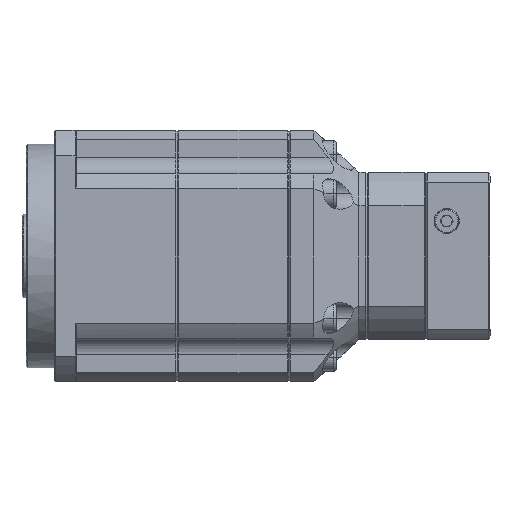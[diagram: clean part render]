
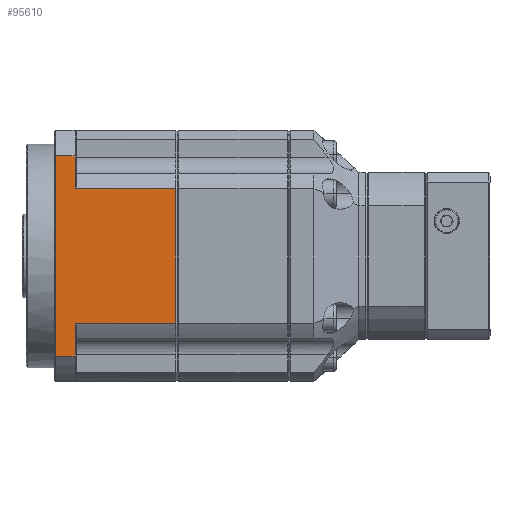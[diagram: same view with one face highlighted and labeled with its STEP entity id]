
A CAD part, front view. The second image highlights one B-rep face of the part: STEP entity #95610.
In plain terms, the highlighted planar face has unit normal (0, -1, 0).
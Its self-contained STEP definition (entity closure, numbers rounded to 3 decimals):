
#1539 = VECTOR ( 'NONE', #22160, 1000. ) ;
#2846 = DIRECTION ( 'NONE',  ( 0., 0., 1. ) ) ;
#3289 = CARTESIAN_POINT ( 'NONE',  ( 32., -45., 35.795 ) ) ;
#4278 = VERTEX_POINT ( 'NONE', #84962 ) ;
#5185 = PLANE ( 'NONE',  #48574 ) ;
#5186 = VECTOR ( 'NONE', #83847, 1000. ) ;
#5300 = CARTESIAN_POINT ( 'NONE',  ( 32., -45., 24. ) ) ;
#5477 = LINE ( 'NONE', #5300, #58775 ) ;
#6065 = VERTEX_POINT ( 'NONE', #76075 ) ;
#6673 = VECTOR ( 'NONE', #20224, 1000. ) ;
#8190 = EDGE_CURVE ( 'NONE', #70177, #73108, #84042, .T. ) ;
#8456 = CARTESIAN_POINT ( 'NONE',  ( 53.5, -45., -24. ) ) ;
#15548 = LINE ( 'NONE', #84854, #94473 ) ;
#18682 = EDGE_LOOP ( 'NONE', ( #52327, #39059, #21064, #46289, #98760, #54690, #23432, #50828 ) ) ;
#19773 = DIRECTION ( 'NONE',  ( 0., -1., 0. ) ) ;
#19998 = CARTESIAN_POINT ( 'NONE',  ( 32., -45., -35.795 ) ) ;
#20224 = DIRECTION ( 'NONE',  ( -1., 0., 0. ) ) ;
#21064 = ORIENTED_EDGE ( 'NONE', *, *, #33747, .T. ) ;
#22160 = DIRECTION ( 'NONE',  ( 0., 0., 1. ) ) ;
#23432 = ORIENTED_EDGE ( 'NONE', *, *, #50534, .T. ) ;
#23489 = EDGE_CURVE ( 'NONE', #62609, #6065, #5477, .T. ) ;
#28107 = DIRECTION ( 'NONE',  ( 1., 0., 0. ) ) ;
#30639 = LINE ( 'NONE', #76356, #5186 ) ;
#33747 = EDGE_CURVE ( 'NONE', #73108, #100529, #30639, .T. ) ;
#36455 = DIRECTION ( 'NONE',  ( -1., 0., 0. ) ) ;
#39059 = ORIENTED_EDGE ( 'NONE', *, *, #8190, .T. ) ;
#39163 = CARTESIAN_POINT ( 'NONE',  ( 17.5, -45., -35.795 ) ) ;
#44246 = CARTESIAN_POINT ( 'NONE',  ( 17.5, -45., -24. ) ) ;
#44856 = CARTESIAN_POINT ( 'NONE',  ( 17.5, -45., 0. ) ) ;
#46289 = ORIENTED_EDGE ( 'NONE', *, *, #57073, .F. ) ;
#47999 = LINE ( 'NONE', #49485, #63749 ) ;
#48574 = AXIS2_PLACEMENT_3D ( 'NONE', #58663, #19773, #83145 ) ;
#49485 = CARTESIAN_POINT ( 'NONE',  ( 53.5, -45., 0. ) ) ;
#50534 = EDGE_CURVE ( 'NONE', #99269, #92837, #70912, .T. ) ;
#50828 = ORIENTED_EDGE ( 'NONE', *, *, #88765, .T. ) ;
#52327 = ORIENTED_EDGE ( 'NONE', *, *, #82191, .T. ) ;
#52397 = CARTESIAN_POINT ( 'NONE',  ( 17.5, -45., 35.795 ) ) ;
#54690 = ORIENTED_EDGE ( 'NONE', *, *, #85901, .T. ) ;
#57073 = EDGE_CURVE ( 'NONE', #62609, #100529, #47999, .T. ) ;
#58663 = CARTESIAN_POINT ( 'NONE',  ( 10.5, -45., 35.795 ) ) ;
#58775 = VECTOR ( 'NONE', #36455, 1000. ) ;
#62609 = VERTEX_POINT ( 'NONE', #77284 ) ;
#63749 = VECTOR ( 'NONE', #97369, 1000. ) ;
#67066 = VECTOR ( 'NONE', #2846, 1000. ) ;
#67531 = VECTOR ( 'NONE', #28107, 1000. ) ;
#67705 = CARTESIAN_POINT ( 'NONE',  ( 10.5, -45., 35.795 ) ) ;
#69465 = LINE ( 'NONE', #80429, #67066 ) ;
#69559 = FACE_OUTER_BOUND ( 'NONE', #18682, .T. ) ;
#70177 = VERTEX_POINT ( 'NONE', #39163 ) ;
#70912 = LINE ( 'NONE', #3289, #6673 ) ;
#73108 = VERTEX_POINT ( 'NONE', #44246 ) ;
#76075 = CARTESIAN_POINT ( 'NONE',  ( 17.5, -45., 24. ) ) ;
#76356 = CARTESIAN_POINT ( 'NONE',  ( 32., -45., -24. ) ) ;
#77284 = CARTESIAN_POINT ( 'NONE',  ( 53.5, -45., 24. ) ) ;
#80429 = CARTESIAN_POINT ( 'NONE',  ( 17.5, -45., 0. ) ) ;
#82191 = EDGE_CURVE ( 'NONE', #4278, #70177, #85757, .T. ) ;
#83145 = DIRECTION ( 'NONE',  ( 0., 0., -1. ) ) ;
#83847 = DIRECTION ( 'NONE',  ( 1., 0., 0. ) ) ;
#84042 = LINE ( 'NONE', #44856, #1539 ) ;
#84527 = DIRECTION ( 'NONE',  ( 0., 0., -1. ) ) ;
#84854 = CARTESIAN_POINT ( 'NONE',  ( 10.5, -45., 0. ) ) ;
#84962 = CARTESIAN_POINT ( 'NONE',  ( 10.5, -45., -35.795 ) ) ;
#85757 = LINE ( 'NONE', #19998, #67531 ) ;
#85901 = EDGE_CURVE ( 'NONE', #6065, #99269, #69465, .T. ) ;
#88765 = EDGE_CURVE ( 'NONE', #92837, #4278, #15548, .T. ) ;
#92837 = VERTEX_POINT ( 'NONE', #67705 ) ;
#94473 = VECTOR ( 'NONE', #84527, 1000. ) ;
#95610 = ADVANCED_FACE ( 'NONE', ( #69559 ), #5185, .T. ) ;
#97369 = DIRECTION ( 'NONE',  ( 0., 0., -1. ) ) ;
#98760 = ORIENTED_EDGE ( 'NONE', *, *, #23489, .T. ) ;
#99269 = VERTEX_POINT ( 'NONE', #52397 ) ;
#100529 = VERTEX_POINT ( 'NONE', #8456 ) ;
